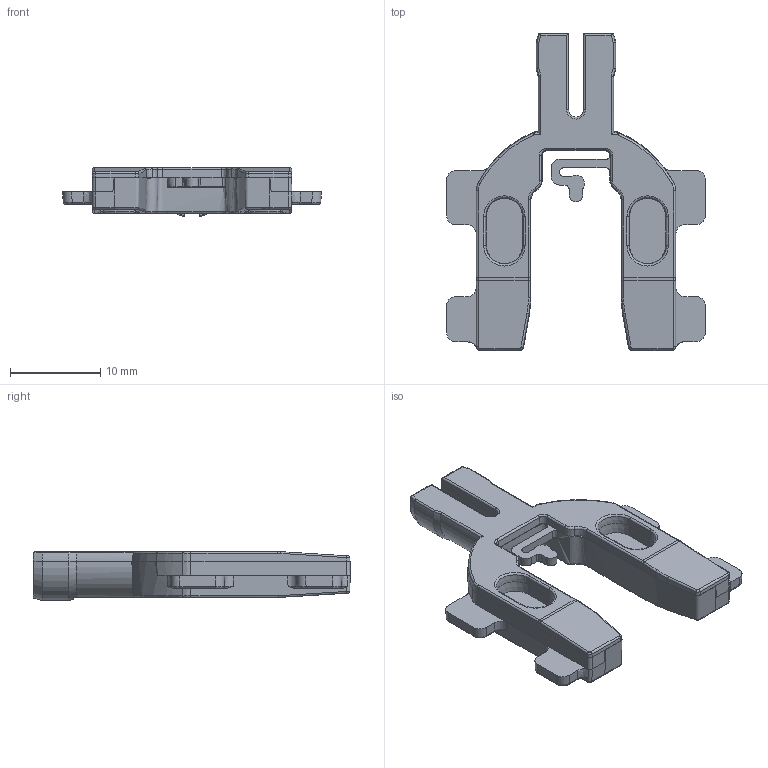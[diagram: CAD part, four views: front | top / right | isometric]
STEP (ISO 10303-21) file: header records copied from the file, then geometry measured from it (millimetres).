
FILE_DESCRIPTION(/* description */ (''),/* implementation_level */ '2;1');
FILE_NAME(/* name */ 'LA_3061_2529_B.stp',/* time_stamp */ '2015-02-24T08:31:40+00:00',/* author */ (''),/* organization */ (''),/* preprocessor_version */ 'ST-DEVELOPER v11',/* originating_system */ 'SIEMENS PLM Software NX 7.5',/* authorisation */ '');
FILE_SCHEMA (('AUTOMOTIVE_DESIGN { 1 0 10303 214 1 1 1 1 }'));
Length unit declared in the file: millimetre
Products named in the file (1): sj10195D9mjo
Bounding box: 28.7 x 35.25 x 5.43 mm (x, y, z)
Volume: 1367.5 mm3; surface area: 2108.3 mm2
Topology: 1 solids, 1 shells, 626 faces, 1506 edges, 862 vertices
Faces by surface type: cylinder 182, bspline 175, plane 125, cone 56, torus 51, sphere 34, extrusion 2, revolution 1
Entity records: 22629 total; most frequent: CARTESIAN_POINT 9367, ORIENTED_EDGE 2960, DIRECTION 2548, EDGE_CURVE 1480, AXIS2_PLACEMENT_3D 1020, VERTEX_POINT 862, EDGE_LOOP 632, ADVANCED_FACE 626
